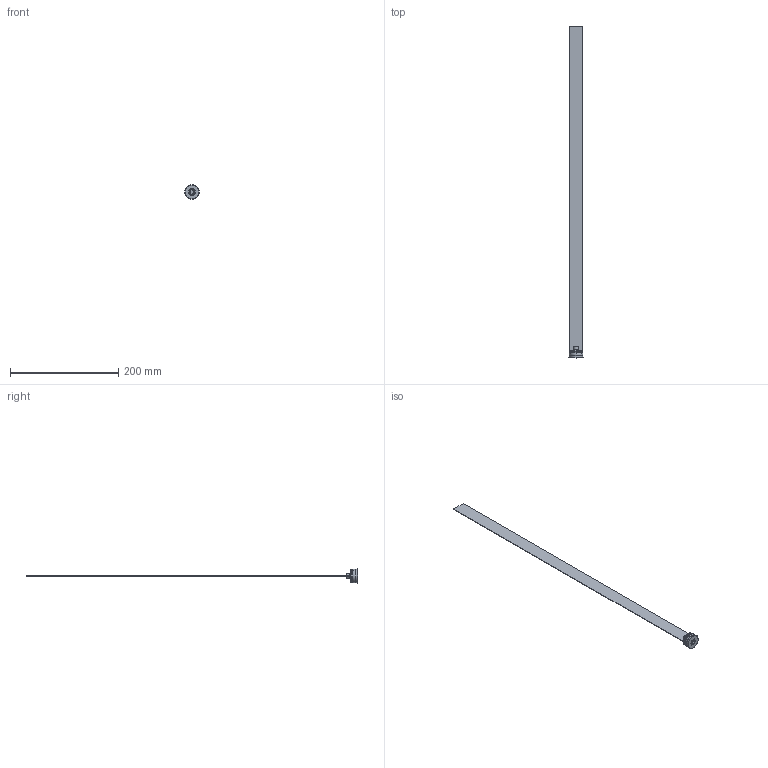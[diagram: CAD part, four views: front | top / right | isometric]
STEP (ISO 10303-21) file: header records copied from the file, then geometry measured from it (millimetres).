
FILE_DESCRIPTION (( 'STEP AP203' ), '1' );
FILE_NAME ('RL-25Fx600.STEP', '2015-12-04T07:22:28', ( 'Balzi' ), ( '' ), 'SwSTEP 2.0', 'SolidWorks 2015', '' );
FILE_SCHEMA (( 'CONFIG_CONTROL_DESIGN' ));
Length unit declared in the file: millimetre
Products named in the file (1): RL-25Fx600
Bounding box: 26.5 x 614 x 26.5 mm (x, y, z)
Volume: 21834.3 mm3; surface area: 33920.3 mm2
Topology: 1 solids, 1 shells, 75 faces, 177 edges, 109 vertices
Faces by surface type: plane 31, cone 19, cylinder 17, torus 8
Entity records: 2245 total; most frequent: CARTESIAN_POINT 412, DIRECTION 386, ORIENTED_EDGE 354, EDGE_CURVE 177, AXIS2_PLACEMENT_3D 147, VERTEX_POINT 109, VECTOR 92, LINE 92
